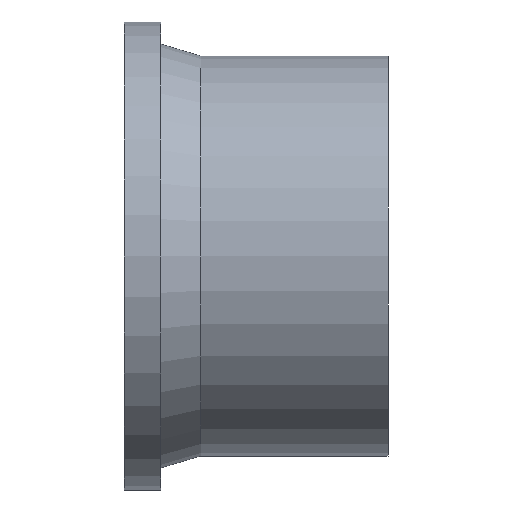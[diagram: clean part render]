
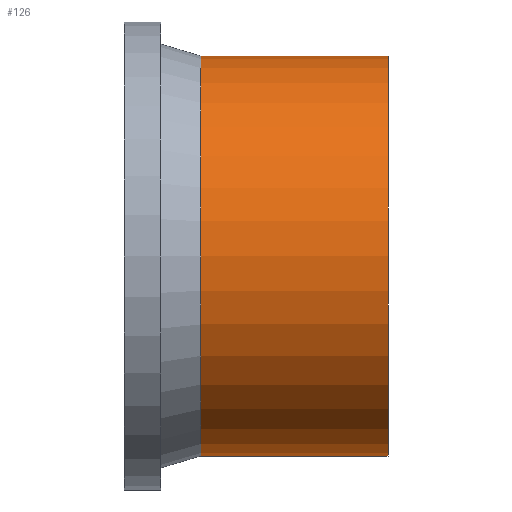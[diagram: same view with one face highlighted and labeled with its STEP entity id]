
A CAD part, front view. The second image highlights one B-rep face of the part: STEP entity #126.
In plain terms, the highlighted cylindrical face has radius 250 mm (diameter 500 mm), a full revolution.
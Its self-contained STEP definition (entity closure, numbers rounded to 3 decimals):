
#77=CARTESIAN_POINT('',(96.,250.,0.));
#78=VERTEX_POINT('',#77);
#79=CARTESIAN_POINT('',(96.,0.,0.));
#80=DIRECTION('',(1.,0.,0.));
#81=DIRECTION('',(0.,1.,0.));
#82=AXIS2_PLACEMENT_3D('',#79,#80,#81);
#83=CIRCLE('',#82,250.);
#84=EDGE_CURVE('',#78,#78,#83,.T.);
#102=CARTESIAN_POINT('',(330.,250.,0.));
#103=VERTEX_POINT('',#102);
#104=CARTESIAN_POINT('',(330.,0.,0.));
#105=DIRECTION('',(1.,0.,0.));
#106=DIRECTION('',(0.,1.,0.));
#107=AXIS2_PLACEMENT_3D('',#104,#105,#106);
#108=CIRCLE('',#107,250.);
#109=EDGE_CURVE('',#103,#103,#108,.T.);
#110=ORIENTED_EDGE('',*,*,#109,.F.);
#111=CARTESIAN_POINT('',(213.,250.,0.));
#112=DIRECTION('',(1.,0.,0.));
#113=VECTOR('',#112,250.);
#114=LINE('',#111,#113);
#115=EDGE_CURVE('',#78,#103,#114,.T.);
#116=ORIENTED_EDGE('',*,*,#115,.F.);
#117=ORIENTED_EDGE('',*,*,#84,.T.);
#118=ORIENTED_EDGE('',*,*,#115,.T.);
#119=EDGE_LOOP('',(#110,#116,#117,#118));
#120=FACE_OUTER_BOUND('',#119,.T.);
#121=CARTESIAN_POINT('',(213.,0.,0.));
#122=DIRECTION('',(1.,0.,0.));
#123=DIRECTION('',(0.,1.,0.));
#124=AXIS2_PLACEMENT_3D('',#121,#122,#123);
#125=CYLINDRICAL_SURFACE('',#124,250.);
#126=ADVANCED_FACE('',(#120),#125,.T.);
